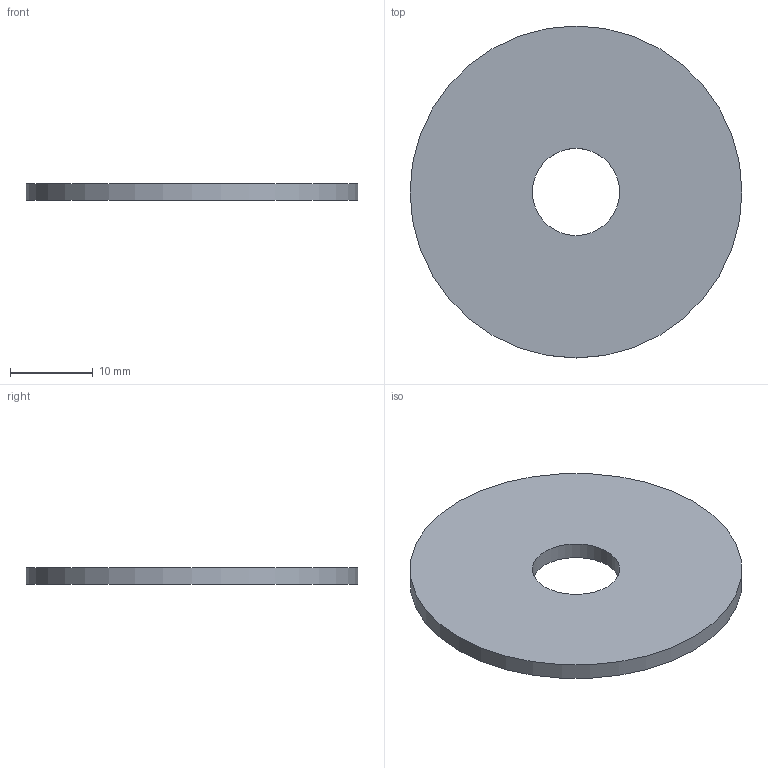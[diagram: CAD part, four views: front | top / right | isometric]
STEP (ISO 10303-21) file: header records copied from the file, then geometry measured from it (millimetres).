
FILE_DESCRIPTION( ( 'Unknown' ), '1' );
FILE_NAME( 'F:/navkite transat/construction/2016/3D ET ASSEMBLAGES/desal/DES 18.stp', 'Unknown', ( 'GMA' ), ( 'Unknown' ), 'XStep 1.0', 'Unknown', ' ' );
FILE_SCHEMA( ( 'automotive_design' ) );
Length unit declared in the file: millimetre
Products named in the file (1): 1
Bounding box: 40 x 40 x 2 mm (x, y, z)
Volume: 2340.1 mm3; surface area: 2657.4 mm2
Topology: 1 solids, 1 shells, 4 faces, 6 edges, 4 vertices
Faces by surface type: cylinder 2, plane 2
Full cylindrical faces by diameter (mm): 10.5 x1, 40 x1
Entity records: 136 total; most frequent: DIRECTION 18, CARTESIAN_POINT 13, AXIS2_PLACEMENT_3D 9, EDGE_LOOP 8, ORIENTED_EDGE 8, FACE_OUTER_BOUND 6, STYLED_ITEM 4, PRESENTATION_STYLE_ASSIGNMENT 4
